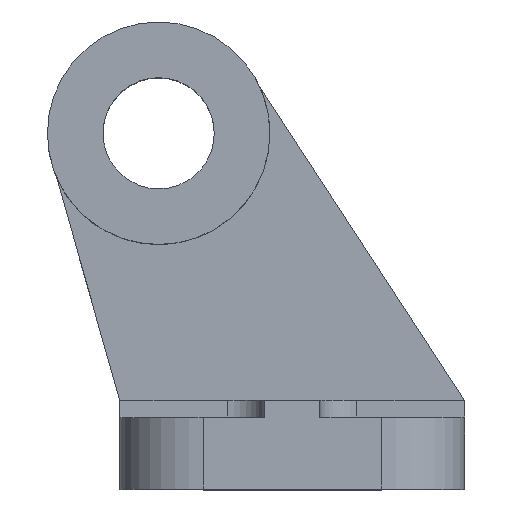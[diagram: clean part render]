
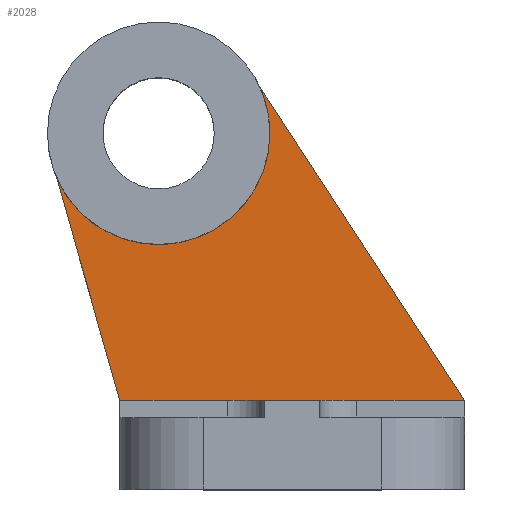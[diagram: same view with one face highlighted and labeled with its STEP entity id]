
A CAD part, top view. The second image highlights one B-rep face of the part: STEP entity #2028.
In plain terms, the highlighted planar face has unit normal (0, 0, 1).
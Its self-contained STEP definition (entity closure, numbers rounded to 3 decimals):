
#9 = VERTEX_POINT ( 'NONE', #989 ) ;
#66 = FACE_OUTER_BOUND ( 'NONE', #343, .T. ) ;
#85 = VERTEX_POINT ( 'NONE', #1788 ) ;
#89 = AXIS2_PLACEMENT_3D ( 'NONE', #1039, #242, #1205 ) ;
#114 = DIRECTION ( 'NONE',  ( -0.547, 0.837, 0. ) ) ;
#127 = CARTESIAN_POINT ( 'NONE',  ( 27.5, -24., 5. ) ) ;
#135 = VERTEX_POINT ( 'NONE', #1187 ) ;
#191 = DIRECTION ( 'NONE',  ( 1., 0., 0. ) ) ;
#242 = DIRECTION ( 'NONE',  ( 0., 0., 1. ) ) ;
#300 = CARTESIAN_POINT ( 'NONE',  ( -9.142, -4.052, 5. ) ) ;
#338 = CARTESIAN_POINT ( 'NONE',  ( 0., 0., 5. ) ) ;
#343 = EDGE_LOOP ( 'NONE', ( #1991, #502, #496, #430, #1306 ) ) ;
#429 = EDGE_CURVE ( 'NONE', #1603, #85, #1923, .T. ) ;
#430 = ORIENTED_EDGE ( 'NONE', *, *, #1588, .T. ) ;
#466 = DIRECTION ( 'NONE',  ( 1., 0., 0. ) ) ;
#485 = CIRCLE ( 'NONE', #515, 10. ) ;
#496 = ORIENTED_EDGE ( 'NONE', *, *, #911, .F. ) ;
#502 = ORIENTED_EDGE ( 'NONE', *, *, #1362, .F. ) ;
#508 = CARTESIAN_POINT ( 'NONE',  ( 0., -24., 5. ) ) ;
#515 = AXIS2_PLACEMENT_3D ( 'NONE', #338, #1766, #466 ) ;
#585 = VECTOR ( 'NONE', #114, 1000. ) ;
#593 = DIRECTION ( 'NONE',  ( 0.272, -0.962, 0. ) ) ;
#659 = VERTEX_POINT ( 'NONE', #852 ) ;
#748 = AXIS2_PLACEMENT_3D ( 'NONE', #1779, #1641, #1897 ) ;
#852 = CARTESIAN_POINT ( 'NONE',  ( 9.06, 4.233, 5. ) ) ;
#887 = CIRCLE ( 'NONE', #748, 10. ) ;
#911 = EDGE_CURVE ( 'NONE', #9, #135, #485, .T. ) ;
#989 = CARTESIAN_POINT ( 'NONE',  ( -9.142, -4.052, 5. ) ) ;
#1039 = CARTESIAN_POINT ( 'NONE',  ( 0., 0., 5. ) ) ;
#1156 = EDGE_CURVE ( 'NONE', #85, #659, #1687, .T. ) ;
#1187 = CARTESIAN_POINT ( 'NONE',  ( 10., 0., 5. ) ) ;
#1205 = DIRECTION ( 'NONE',  ( 1., 0., 0. ) ) ;
#1265 = CARTESIAN_POINT ( 'NONE',  ( -3.5, -24., 5. ) ) ;
#1306 = ORIENTED_EDGE ( 'NONE', *, *, #429, .T. ) ;
#1341 = PLANE ( 'NONE',  #89 ) ;
#1362 = EDGE_CURVE ( 'NONE', #135, #659, #887, .T. ) ;
#1487 = VECTOR ( 'NONE', #593, 1000. ) ;
#1588 = EDGE_CURVE ( 'NONE', #9, #1603, #1736, .T. ) ;
#1603 = VERTEX_POINT ( 'NONE', #1265 ) ;
#1641 = DIRECTION ( 'NONE',  ( 0., 0., 1. ) ) ;
#1687 = LINE ( 'NONE', #127, #585 ) ;
#1736 = LINE ( 'NONE', #300, #1487 ) ;
#1766 = DIRECTION ( 'NONE',  ( 0., 0., 1. ) ) ;
#1779 = CARTESIAN_POINT ( 'NONE',  ( 0., 0., 5. ) ) ;
#1788 = CARTESIAN_POINT ( 'NONE',  ( 27.5, -24., 5. ) ) ;
#1850 = VECTOR ( 'NONE', #191, 1000. ) ;
#1897 = DIRECTION ( 'NONE',  ( 1., 0., 0. ) ) ;
#1923 = LINE ( 'NONE', #508, #1850 ) ;
#1991 = ORIENTED_EDGE ( 'NONE', *, *, #1156, .T. ) ;
#2028 = ADVANCED_FACE ( 'NONE', ( #66 ), #1341, .T. ) ;
